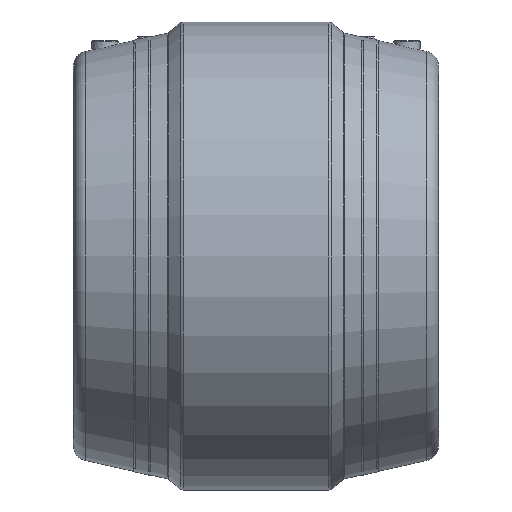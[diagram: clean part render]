
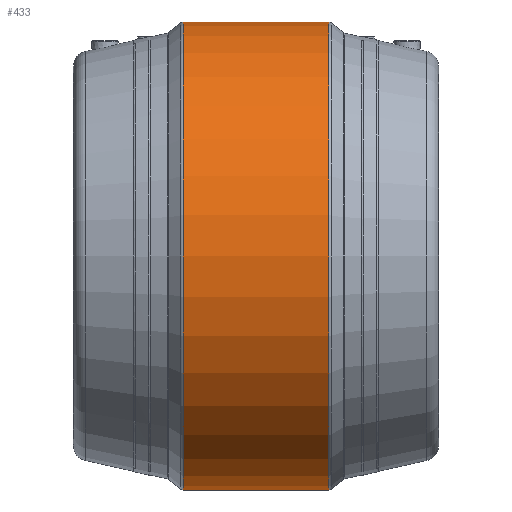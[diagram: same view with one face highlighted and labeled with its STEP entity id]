
A CAD part, front view. The second image highlights one B-rep face of the part: STEP entity #433.
In plain terms, the highlighted cylindrical face has radius 170.5 mm (diameter 341 mm), a full revolution.
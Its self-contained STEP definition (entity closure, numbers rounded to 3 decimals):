
#33=CYLINDRICAL_SURFACE('',#500,170.5);
#77=ORIENTED_EDGE('',*,*,#157,.T.);
#78=ORIENTED_EDGE('',*,*,#158,.T.);
#157=EDGE_CURVE('',#199,#199,#236,.T.);
#158=EDGE_CURVE('',#200,#200,#237,.F.);
#199=VERTEX_POINT('',#799);
#200=VERTEX_POINT('',#801);
#236=CIRCLE('',#501,170.5);
#237=CIRCLE('',#502,170.5);
#278=EDGE_LOOP('',(#77));
#279=EDGE_LOOP('',(#78));
#356=FACE_BOUND('',#278,.T.);
#357=FACE_BOUND('',#279,.T.);
#433=ADVANCED_FACE('',(#356,#357),#33,.T.);
#500=AXIS2_PLACEMENT_3D('',#797,#601,#602);
#501=AXIS2_PLACEMENT_3D('',#798,#603,#604);
#502=AXIS2_PLACEMENT_3D('',#800,#605,#606);
#601=DIRECTION('',(-1.,0.,0.));
#602=DIRECTION('',(0.,0.,1.));
#603=DIRECTION('',(1.,0.,0.));
#604=DIRECTION('',(0.,0.,-1.));
#605=DIRECTION('',(1.,0.,0.));
#606=DIRECTION('',(0.,0.,-1.));
#797=CARTESIAN_POINT('',(-60.,0.,0.));
#798=CARTESIAN_POINT('',(-52.948,0.,0.));
#799=CARTESIAN_POINT('',(-52.948,0.,-170.5));
#800=CARTESIAN_POINT('',(52.948,0.,0.));
#801=CARTESIAN_POINT('',(52.948,0.,-170.5));
